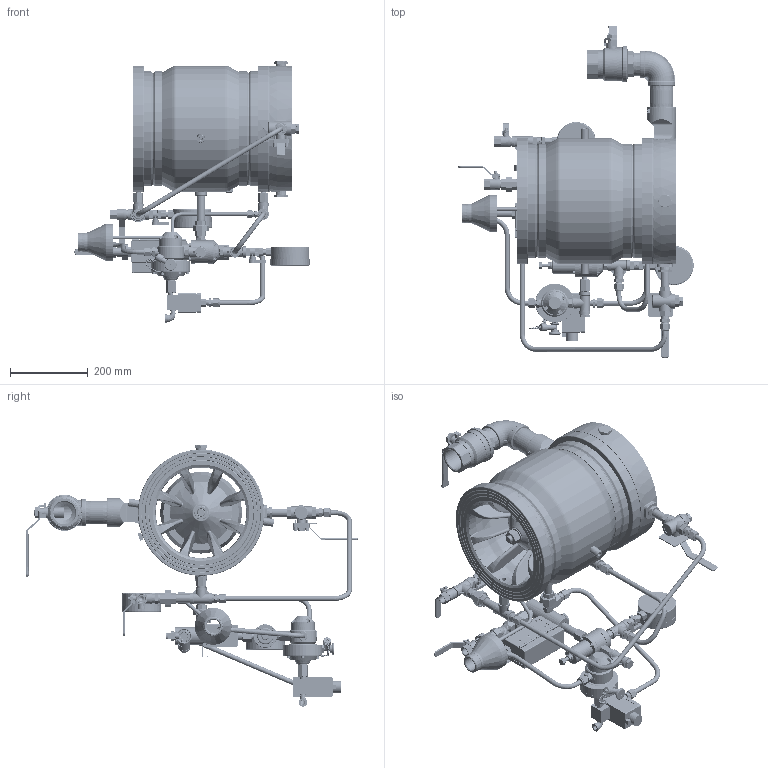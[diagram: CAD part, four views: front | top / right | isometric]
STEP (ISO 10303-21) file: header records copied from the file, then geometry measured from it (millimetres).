
FILE_DESCRIPTION(/* description */ (''),/* implementation_level */ '2;1');
FILE_NAME(/* name */ 'Z:\STANDARD SYSTEM\700DX-04CR05\STEP\799DX-04CR05 FM Trim 10in.stp',/* time_stamp */ '2020-03-17T16:45:37+02:00',/* author */ ('diana'),/* organization */ (''),/* preprocessor_version */ 'ST-DEVELOPER v16.13',/* originating_system */ 'Autodesk Inventor 2018',/* authorisation */ '');
FILE_SCHEMA (('AUTOMOTIVE_DESIGN { 1 0 10303 214 3 1 1 }'));
Length unit declared in the file: millimetre
Products named in the file (169): 799DX-04CR05 FM Trim 10in; Plug 34 SS; 5840; Check Valve; Fitting TF 14NPTxOD12; TFFitting Body 12; Nipple 12x3 SS; Adapter 14Mx12F SS; Tee 12 SS316; 290-08; 5343; 3630; 3629; 3465; DIN 912 - M5 x 12; DIN 912 - M5x30; 5340; 5341; 5339; DIN 912 - M5 x 50; 5346; ISO 7380 - M4 x 8; 6101; CHAIN SUPPORT; CHAIN2; 5175; 5173; 5174; 5257; DIN 934 - M5; 5338; 5440; 5349; Nipple 12 hex SS316; Solenoid Valve 151-6XA rotated_90; 30201; 37_39 Coil; Nipple 12x14 L60 SS; 351-08-08; ASME B16.3 90 Deg Street Elbow - Class 150 1/4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
Assembly tree (234 placements, depth 5):
  799DX-04CR05 FM Trim 10in
    Plug 12 SS  x3
    Plug 34 SS  x2
    5840
    Check Valve
      Fitting TF 12NPTxOD12
        TFFitting Body 12_1
        Back Ferrule 12
        Front Ferrule 12
        Fitting Nut 12
      6244-1
        6245-1
        0-RING Ø12xØ3
        DIN 472 - 18 x 1
        BALL OD14mm
        5214_
        6246
        6318
        0-RING2112
    Fitting TF 14NPTxOD12
      TFFitting Body 12
      Back Ferrule 12
      Front Ferrule 12
      Fitting Nut 12
    Nipple 12x14 L60 SS  x2
    Nipple 12x3 SS
    Adapter 14Mx12F SS
    Tee 12 SS316
    290-08
      5343
      3630
      3629
      3465
      DIN 912 - M5 x 12  x6
      DIN 912 - M5x30  x4
      DIN 912 - M5 x 20  x4
      5340
      5341
      5339
      DIN 912 - M5 x 50
      5346
      ISO 7380 - M4 x 8
      6101
        CHAIN SUPPORT  x2
        CHAIN2
      5175
      5173
      5174  x2
      5257
      DIN 934 - M5  x2
      5338
      5440
      5349
    Nipple 12 hex SS316
    Solenoid Valve 151-6XA rotated_90
      30201
      37_39 Coil
    Fitting TF 12NPTxOD12  x5
      TFFitting Body 12_1
      Back Ferrule 12
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Bounding box: 604.26 x 852.06 x 670.66 mm (x, y, z)
Volume: 14570605.5 mm3; surface area: 3124687.5 mm2
Topology: 230 solids, 233 shells, 6717 faces, 15857 edges, 9922 vertices
Faces by surface type: plane 3098, cone 1451, cylinder 1367, bspline 559, torus 214, sphere 28
Full cylindrical faces by diameter (mm): 0.625 x1, 1.2 x10, 2 x8, 3 x3, 3.242 x3, 4 x13, 4.1 x2, 4.134 x29, 4.2 x6, 4.3 x2, 4.5 x2, 4.978 x2, 5 x49, 5.2 x24, 5.25 x2, 5.5 x5, 5.8 x4, 6 x7, 6.33 x4, 6.35 x2, 6.4 x4, 6.5 x4, 6.6 x2, 6.604 x1, 6.647 x1, 6.88 x2, 7 x10, 7.036 x3, 7.3 x1, 7.5 x3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
Entity records: 148154 total; most frequent: CARTESIAN_POINT 40785, DIRECTION 20438, ORIENTED_EDGE 19946, EDGE_CURVE 9964, AXIS2_PLACEMENT_3D 7881, VERTEX_POINT 6829, EDGE_LOOP 6433, ADVANCED_FACE 4713
